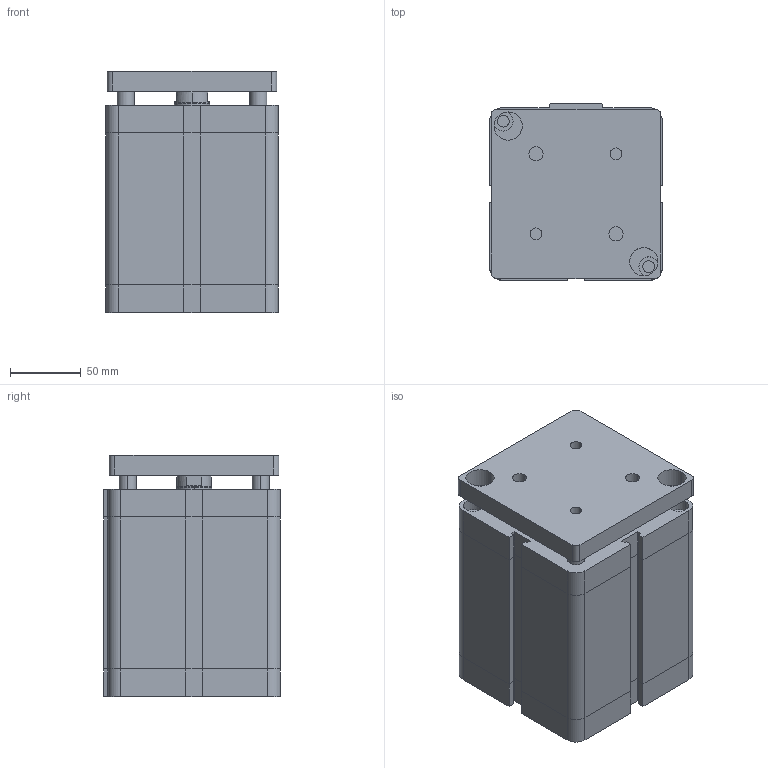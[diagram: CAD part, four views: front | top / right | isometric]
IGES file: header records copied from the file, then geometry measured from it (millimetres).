
Global section: file name: No Iges File Name specified; native system: Autodesk Inventor 2009; preprocessor: AutoDesk Inventor Iges Exporter R2009; author: maffial1; date: 20090420.201428; units: millimetre
Bounding box: 122 x 125 x 170.5 mm (x, y, z)
Volume: 2341927.3 mm3; surface area: 177847.4 mm2
Topology: 2 solids, 2 shells, 212 faces, 486 edges, 298 vertices
Faces by surface type: plane 111, bspline 67, cylinder 26, cone 8
